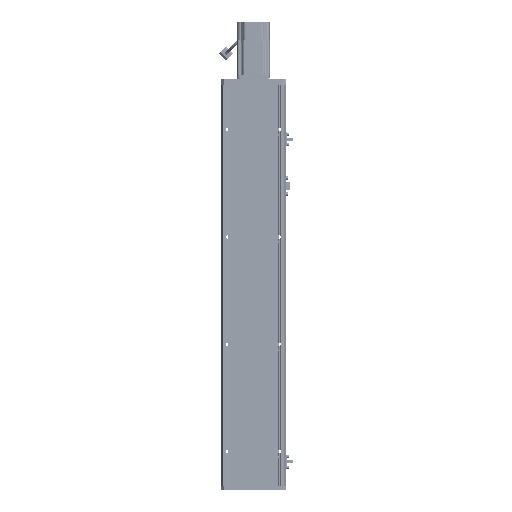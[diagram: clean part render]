
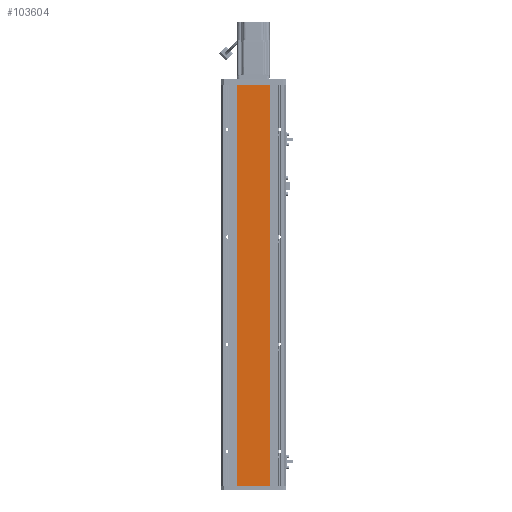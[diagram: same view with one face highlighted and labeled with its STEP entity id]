
A CAD part, front view. The second image highlights one B-rep face of the part: STEP entity #103604.
In plain terms, the highlighted planar face has unit normal (0, -1, 0).
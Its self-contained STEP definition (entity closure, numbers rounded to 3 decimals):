
#325 = VERTEX_POINT ( 'NONE', #52945 ) ;
#3838 = CARTESIAN_POINT ( 'NONE',  ( -30., 0., -746.5 ) ) ;
#6287 = ORIENTED_EDGE ( 'NONE', *, *, #47031, .T. ) ;
#6768 = DIRECTION ( 'NONE',  ( -1., 0., 0. ) ) ;
#16492 = AXIS2_PLACEMENT_3D ( 'NONE', #95679, #96381, #46073 ) ;
#22575 = DIRECTION ( 'NONE',  ( -1., 0., 0. ) ) ;
#23757 = CARTESIAN_POINT ( 'NONE',  ( 30., 0., 0. ) ) ;
#28481 = LINE ( 'NONE', #3838, #48255 ) ;
#34772 = DIRECTION ( 'NONE',  ( 0., 0., 1. ) ) ;
#35783 = EDGE_CURVE ( 'NONE', #325, #60569, #69557, .T. ) ;
#36958 = CARTESIAN_POINT ( 'NONE',  ( 30., 0., 0. ) ) ;
#37372 = DIRECTION ( 'NONE',  ( 0., 0., 1. ) ) ;
#37586 = EDGE_LOOP ( 'NONE', ( #44426, #84548, #49589, #6287 ) ) ;
#37601 = PLANE ( 'NONE',  #16492 ) ;
#38471 = LINE ( 'NONE', #68661, #80596 ) ;
#44426 = ORIENTED_EDGE ( 'NONE', *, *, #78419, .T. ) ;
#46073 = DIRECTION ( 'NONE',  ( -1., 0., 0. ) ) ;
#47031 = EDGE_CURVE ( 'NONE', #325, #87134, #38471, .T. ) ;
#47166 = VECTOR ( 'NONE', #22575, 1000. ) ;
#48255 = VECTOR ( 'NONE', #37372, 1000. ) ;
#49589 = ORIENTED_EDGE ( 'NONE', *, *, #35783, .F. ) ;
#51675 = EDGE_CURVE ( 'NONE', #60569, #86617, #28481, .T. ) ;
#52945 = CARTESIAN_POINT ( 'NONE',  ( 30., 0., -746.5 ) ) ;
#56078 = CARTESIAN_POINT ( 'NONE',  ( 30., 0., -746.5 ) ) ;
#60569 = VERTEX_POINT ( 'NONE', #79442 ) ;
#68661 = CARTESIAN_POINT ( 'NONE',  ( 30., 0., -746.5 ) ) ;
#69557 = LINE ( 'NONE', #56078, #47166 ) ;
#78419 = EDGE_CURVE ( 'NONE', #87134, #86617, #106341, .T. ) ;
#79442 = CARTESIAN_POINT ( 'NONE',  ( -30., 0., -746.5 ) ) ;
#79743 = CARTESIAN_POINT ( 'NONE',  ( -30., 0., 0. ) ) ;
#80596 = VECTOR ( 'NONE', #34772, 1000. ) ;
#84548 = ORIENTED_EDGE ( 'NONE', *, *, #51675, .F. ) ;
#86617 = VERTEX_POINT ( 'NONE', #79743 ) ;
#87134 = VERTEX_POINT ( 'NONE', #36958 ) ;
#95679 = CARTESIAN_POINT ( 'NONE',  ( 30., 0., -746.5 ) ) ;
#96381 = DIRECTION ( 'NONE',  ( 0., 1., 0. ) ) ;
#103604 = ADVANCED_FACE ( 'NONE', ( #104295 ), #37601, .F. ) ;
#103716 = VECTOR ( 'NONE', #6768, 1000. ) ;
#104295 = FACE_OUTER_BOUND ( 'NONE', #37586, .T. ) ;
#106341 = LINE ( 'NONE', #23757, #103716 ) ;
